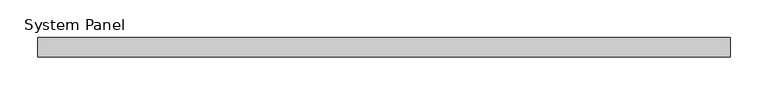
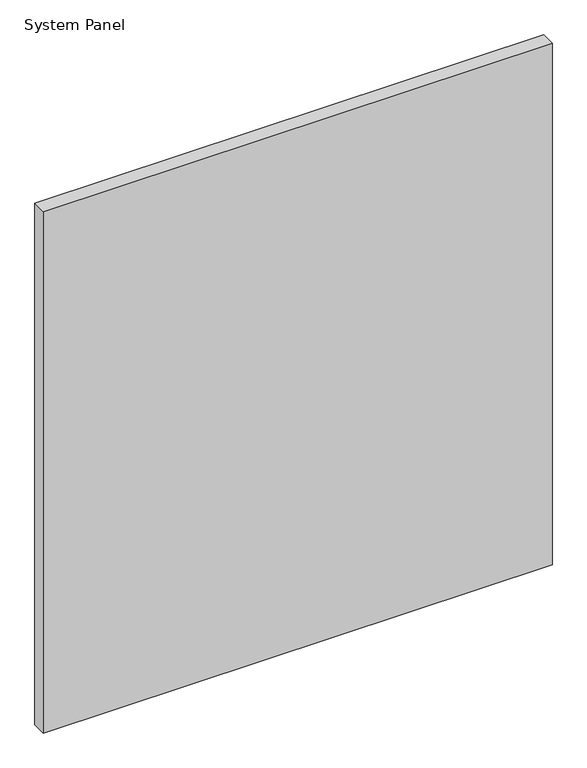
"""IFC4 building model written with IfcOpenShell, lengths in millimetres: plate geometry, System Panel : Glazed - ACMP (AL-1)."""

from ifc_helpers import new_model, si_unit, origin, origin_with_axes, place, context, project, spatial, polyline, outline, extrude, source, transform, mapped, element, save


def system_panel_4ce23a19(model_context):
    return source(origin(), model_context, "Body", "SweptSolid", [
        extrude(outline(polyline([(457.2, 0.0), (-457.2, 0.0), (-457.2, 25.4), (457.2, 25.4), (457.2, 0.0)])), origin_with_axes(), (0.0, 0.0, 1.0), 990.5999994),
    ])


if __name__ == "__main__":
    model = new_model("IFC4")
    model_context = context("Model", 3, world=origin())
    ifc_project = project(units=[si_unit("LENGTHUNIT", "METRE", prefix="MILLI")], contexts=[model_context])
    site = spatial("IfcSite", under=ifc_project)
    building = spatial("IfcBuilding", under=site)
    placement = place(None, origin())
    system_panel_shape = system_panel_4ce23a19(model_context)
    element("IfcPlate", 1, ObjectType="System Panel : Glazed - ACMP (AL-1)", at=placement, inside=building, context=model_context, shape_type="MappedRepresentation", body=[
        mapped(system_panel_shape, transform((0.0, 0.0, 0.0), x_axis=(1.0, 0.0, 0.0), y_axis=(0.0, 1.0, 0.0), z_axis=(0.0, 0.0, 1.0))),
    ])
    save(model, "model.ifc")
